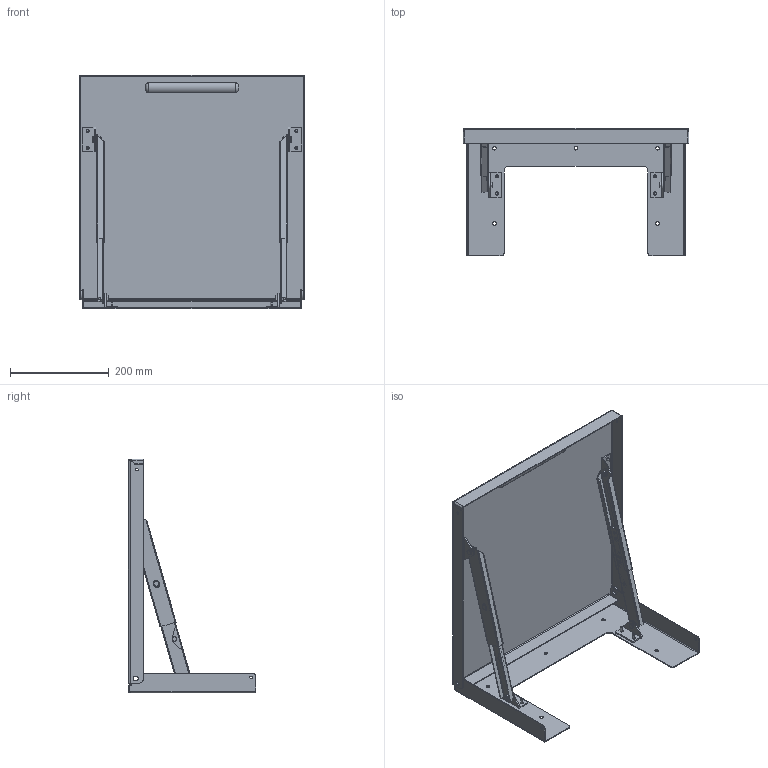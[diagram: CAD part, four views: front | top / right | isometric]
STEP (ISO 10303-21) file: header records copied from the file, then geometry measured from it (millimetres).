
FILE_DESCRIPTION (( 'STEP AP203' ), '1' );
FILE_NAME ('aashlf1818.STEP', '2013-03-28T15:36:48', ( 'User' ), ( 'Pentair Inc' ), 'SwSTEP 2.0', 'SolidWorks 2010', '' );
FILE_SCHEMA (( 'CONFIG_CONTROL_DESIGN' ));
Length unit declared in the file: inch
Products named in the file (15): 99401230; aashlf1818; 87939592; 87939593; 87939583; 87939584; 99404181; 87785132; 87950256_extended engaged left; 87950256_extended engaged right; 87950259; 87950258; 87950257; 22101011; 99411975_99411975
Assembly tree (36 placements, depth 3):
  aashlf1818
    87939592
      87939593
      99404181  x4
    87950256_extended engaged left
      22101011  x2
      99411975_99411975  x2
      99401230  x2
      87950259  x2
      87950258
      87950257
    87950256_extended engaged right
      87950257
      22101011  x2
      99411975_99411975  x2
      87950259  x2
      99401230  x2
      87950258
    87939583
      99404181  x4
      87939584
    87785132  x2
Bounding box: 457.22 x 257.35 x 473.38 mm (x, y, z)
Volume: 759739.7 mm3; surface area: 847173.7 mm2
Topology: 56 solids, 56 shells, 1234 faces, 2788 edges, 1698 vertices
Faces by surface type: cylinder 474, plane 420, cone 268, torus 58, bspline 14
Entity records: 19946 total; most frequent: CARTESIAN_POINT 5419, DIRECTION 2648, ORIENTED_EDGE 2474, EDGE_CURVE 1237, AXIS2_PLACEMENT_3D 1008, VERTEX_POINT 763, VECTOR 632, LINE 632
